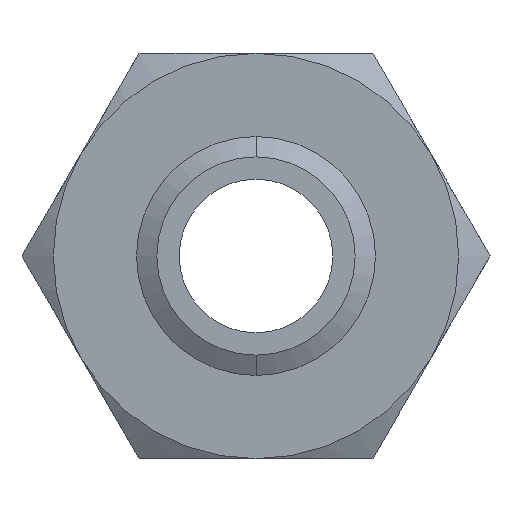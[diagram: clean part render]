
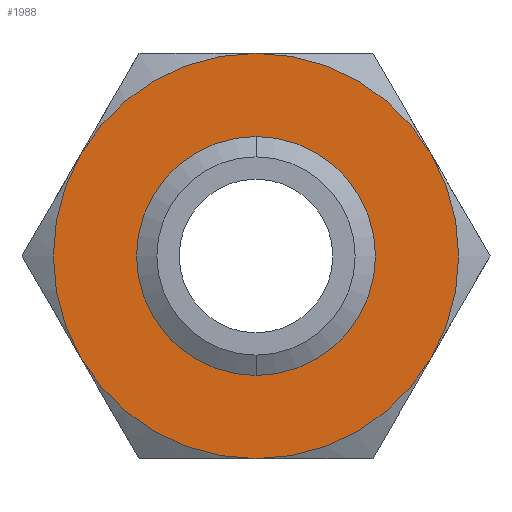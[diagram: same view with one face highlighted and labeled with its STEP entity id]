
A CAD part, front view. The second image highlights one B-rep face of the part: STEP entity #1988.
In plain terms, the highlighted planar face has unit normal (0, -1, 0).
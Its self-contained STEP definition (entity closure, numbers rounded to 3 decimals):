
#31 = VERTEX_POINT ( 'NONE', #174 ) ;
#58 = VERTEX_POINT ( 'NONE', #252 ) ;
#59 = EDGE_CURVE ( 'NONE', #58, #31, #251, .T. ) ;
#174 = CARTESIAN_POINT ( 'NONE',  ( 0., 0., 23.237 ) ) ;
#247 = DIRECTION ( 'NONE',  ( 0., 0., -1. ) ) ;
#248 = DIRECTION ( 'NONE',  ( 0., -1., 0. ) ) ;
#249 = CARTESIAN_POINT ( 'NONE',  ( 0., 0., 0. ) ) ;
#250 = AXIS2_PLACEMENT_3D ( 'NONE', #249, #248, #247 ) ;
#251 = CIRCLE ( 'NONE', #250, 23.237 ) ;
#252 = CARTESIAN_POINT ( 'NONE',  ( 0., 0., -23.237 ) ) ;
#1058 = CARTESIAN_POINT ( 'NONE',  ( 0., 0., 0. ) ) ;
#1059 = AXIS2_PLACEMENT_3D ( 'NONE', #1058, #1124, #1123 ) ;
#1060 = CIRCLE ( 'NONE', #1059, 47.5 ) ;
#1061 = DIRECTION ( 'NONE',  ( 0., 0., 1. ) ) ;
#1062 = DIRECTION ( 'NONE',  ( 0., 1., 0. ) ) ;
#1063 = CARTESIAN_POINT ( 'NONE',  ( 0., 0., 0. ) ) ;
#1064 = AXIS2_PLACEMENT_3D ( 'NONE', #1063, #1062, #1061 ) ;
#1065 = CIRCLE ( 'NONE', #1064, 47.5 ) ;
#1066 = CARTESIAN_POINT ( 'NONE',  ( -41.136, 0., -23.75 ) ) ;
#1067 = CARTESIAN_POINT ( 'NONE',  ( -41.136, 0., 23.75 ) ) ;
#1068 = DIRECTION ( 'NONE',  ( 0., 0., 1. ) ) ;
#1069 = DIRECTION ( 'NONE',  ( 0., 1., 0. ) ) ;
#1070 = CARTESIAN_POINT ( 'NONE',  ( 0., 0., 0. ) ) ;
#1071 = AXIS2_PLACEMENT_3D ( 'NONE', #1070, #1069, #1068 ) ;
#1072 = CIRCLE ( 'NONE', #1071, 47.5 ) ;
#1073 = CARTESIAN_POINT ( 'NONE',  ( 41.136, 0., 23.75 ) ) ;
#1074 = DIRECTION ( 'NONE',  ( 0., 0., 1. ) ) ;
#1075 = DIRECTION ( 'NONE',  ( 0., 1., 0. ) ) ;
#1076 = CARTESIAN_POINT ( 'NONE',  ( 0., 0., 47.5 ) ) ;
#1077 = CARTESIAN_POINT ( 'NONE',  ( 27.424, 0., -47.5 ) ) ;
#1078 = AXIS2_PLACEMENT_3D ( 'NONE', #1077, #1075, #1074 ) ;
#1079 = PLANE ( 'NONE',  #1078 ) ;
#1080 = FACE_BOUND ( 'NONE', #2016, .T. ) ;
#1081 = FACE_OUTER_BOUND ( 'NONE', #1989, .T. ) ;
#1090 = DIRECTION ( 'NONE',  ( 0., 0., 1. ) ) ;
#1091 = DIRECTION ( 'NONE',  ( 0., 1., 0. ) ) ;
#1092 = CARTESIAN_POINT ( 'NONE',  ( 0., 0., 0. ) ) ;
#1093 = AXIS2_PLACEMENT_3D ( 'NONE', #1092, #1091, #1090 ) ;
#1094 = CIRCLE ( 'NONE', #1093, 47.5 ) ;
#1106 = DIRECTION ( 'NONE',  ( 0., 0., -1. ) ) ;
#1107 = DIRECTION ( 'NONE',  ( 0., -1., 0. ) ) ;
#1108 = CARTESIAN_POINT ( 'NONE',  ( 0., 0., 0. ) ) ;
#1109 = AXIS2_PLACEMENT_3D ( 'NONE', #1108, #1107, #1106 ) ;
#1110 = CIRCLE ( 'NONE', #1109, 23.237 ) ;
#1111 = DIRECTION ( 'NONE',  ( 0., 0., 1. ) ) ;
#1112 = DIRECTION ( 'NONE',  ( 0., 1., 0. ) ) ;
#1113 = CARTESIAN_POINT ( 'NONE',  ( 0., 0., 0. ) ) ;
#1114 = AXIS2_PLACEMENT_3D ( 'NONE', #1113, #1112, #1111 ) ;
#1115 = CIRCLE ( 'NONE', #1114, 47.5 ) ;
#1116 = CARTESIAN_POINT ( 'NONE',  ( 41.136, 0., -23.75 ) ) ;
#1117 = CARTESIAN_POINT ( 'NONE',  ( 0., 0., -47.5 ) ) ;
#1123 = DIRECTION ( 'NONE',  ( 0., 0., 1. ) ) ;
#1124 = DIRECTION ( 'NONE',  ( 0., 1., 0. ) ) ;
#1145 = DIRECTION ( 'NONE',  ( 0., 0., 1. ) ) ;
#1146 = DIRECTION ( 'NONE',  ( 0., 1., 0. ) ) ;
#1147 = CARTESIAN_POINT ( 'NONE',  ( 0., 0., 0. ) ) ;
#1148 = AXIS2_PLACEMENT_3D ( 'NONE', #1147, #1146, #1145 ) ;
#1149 = CIRCLE ( 'NONE', #1148, 47.5 ) ;
#1986 = ORIENTED_EDGE ( 'NONE', *, *, #1992, .F. ) ;
#1988 = ADVANCED_FACE ( 'NONE', ( #1081, #1080 ), #1079, .F. ) ;
#1989 = EDGE_LOOP ( 'NONE', ( #1991, #2004, #1993, #1986, #1997, #2017 ) ) ;
#1990 = VERTEX_POINT ( 'NONE', #1076 ) ;
#1991 = ORIENTED_EDGE ( 'NONE', *, *, #2023, .F. ) ;
#1992 = EDGE_CURVE ( 'NONE', #2002, #1996, #1072, .T. ) ;
#1993 = ORIENTED_EDGE ( 'NONE', *, *, #1998, .F. ) ;
#1994 = VERTEX_POINT ( 'NONE', #1073 ) ;
#1995 = VERTEX_POINT ( 'NONE', #1067 ) ;
#1996 = VERTEX_POINT ( 'NONE', #1066 ) ;
#1997 = ORIENTED_EDGE ( 'NONE', *, *, #2005, .F. ) ;
#1998 = EDGE_CURVE ( 'NONE', #1996, #1995, #1065, .T. ) ;
#1999 = EDGE_CURVE ( 'NONE', #1995, #1990, #1060, .T. ) ;
#2002 = VERTEX_POINT ( 'NONE', #1117 ) ;
#2003 = VERTEX_POINT ( 'NONE', #1116 ) ;
#2004 = ORIENTED_EDGE ( 'NONE', *, *, #1999, .F. ) ;
#2005 = EDGE_CURVE ( 'NONE', #2003, #2002, #1115, .T. ) ;
#2008 = EDGE_CURVE ( 'NONE', #31, #58, #1110, .T. ) ;
#2013 = ORIENTED_EDGE ( 'NONE', *, *, #59, .F. ) ;
#2014 = ORIENTED_EDGE ( 'NONE', *, *, #2008, .F. ) ;
#2016 = EDGE_LOOP ( 'NONE', ( #2013, #2014 ) ) ;
#2017 = ORIENTED_EDGE ( 'NONE', *, *, #2019, .F. ) ;
#2019 = EDGE_CURVE ( 'NONE', #1994, #2003, #1094, .T. ) ;
#2023 = EDGE_CURVE ( 'NONE', #1990, #1994, #1149, .T. ) ;
